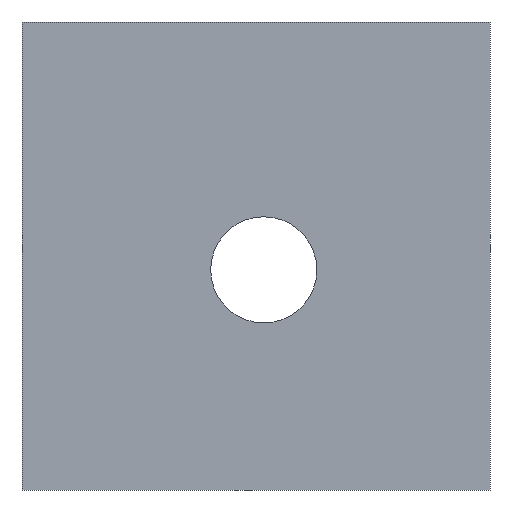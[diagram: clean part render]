
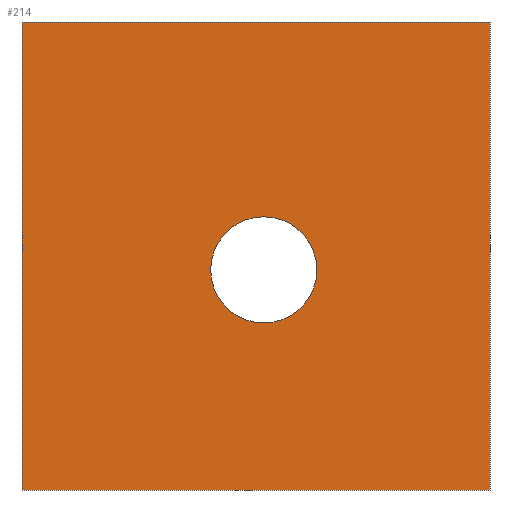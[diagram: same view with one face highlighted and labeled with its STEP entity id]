
A CAD part, front view. The second image highlights one B-rep face of the part: STEP entity #214.
In plain terms, the highlighted planar face has unit normal (0, -1, 0).
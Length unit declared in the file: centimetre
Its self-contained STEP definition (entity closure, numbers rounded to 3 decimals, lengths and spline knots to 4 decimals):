
#6 = ORIENTED_EDGE ( 'NONE', *, *, #8, .T. ) ;
#8 = EDGE_CURVE ( 'NONE', #135, #184, #46, .T. ) ;
#10 = DIRECTION ( 'NONE',  ( 0., 0., -1. ) ) ;
#11 = CARTESIAN_POINT ( 'NONE',  ( 0., 0., 1000. ) ) ;
#22 = EDGE_CURVE ( 'NONE', #33, #67, #165, .T. ) ;
#33 = VERTEX_POINT ( 'NONE', #11 ) ;
#46 = LINE ( 'NONE', #48, #58 ) ;
#48 = CARTESIAN_POINT ( 'NONE',  ( 0., 0., 0. ) ) ;
#57 = EDGE_CURVE ( 'NONE', #289, #181, #94, .T. ) ;
#58 = VECTOR ( 'NONE', #267, 100. ) ;
#67 = VERTEX_POINT ( 'NONE', #140 ) ;
#94 = CIRCLE ( 'NONE', #354, 113.3802 ) ;
#118 = DIRECTION ( 'NONE',  ( 0., 1., 0. ) ) ;
#131 = DIRECTION ( 'NONE',  ( 0., 0., -1. ) ) ;
#132 = ORIENTED_EDGE ( 'NONE', *, *, #22, .F. ) ;
#135 = VERTEX_POINT ( 'NONE', #405 ) ;
#140 = CARTESIAN_POINT ( 'NONE',  ( 1000., 0., 1000. ) ) ;
#151 = EDGE_CURVE ( 'NONE', #33, #135, #373, .T. ) ;
#161 = ORIENTED_EDGE ( 'NONE', *, *, #57, .F. ) ;
#162 = AXIS2_PLACEMENT_3D ( 'NONE', #401, #118, #368 ) ;
#165 = LINE ( 'NONE', #234, #319 ) ;
#174 = CARTESIAN_POINT ( 'NONE',  ( 1000., 0., 0. ) ) ;
#176 = FACE_BOUND ( 'NONE', #305, .T. ) ;
#181 = VERTEX_POINT ( 'NONE', #278 ) ;
#184 = VERTEX_POINT ( 'NONE', #174 ) ;
#202 = DIRECTION ( 'NONE',  ( 0., 0., -1. ) ) ;
#214 = ADVANCED_FACE ( 'NONE', ( #176, #236 ), #312, .F. ) ;
#215 = VECTOR ( 'NONE', #202, 100. ) ;
#226 = DIRECTION ( 'NONE',  ( 1., 0., 0. ) ) ;
#231 = DIRECTION ( 'NONE',  ( 0., 0., -1. ) ) ;
#234 = CARTESIAN_POINT ( 'NONE',  ( 0., 0., 1000. ) ) ;
#236 = FACE_OUTER_BOUND ( 'NONE', #383, .T. ) ;
#237 = VECTOR ( 'NONE', #10, 100. ) ;
#253 = ORIENTED_EDGE ( 'NONE', *, *, #151, .T. ) ;
#256 = LINE ( 'NONE', #389, #237 ) ;
#262 = CARTESIAN_POINT ( 'NONE',  ( 516.6158, 0., 470.3977 ) ) ;
#263 = CARTESIAN_POINT ( 'NONE',  ( 516.6158, 0., 470.3977 ) ) ;
#265 = CIRCLE ( 'NONE', #347, 113.3802 ) ;
#267 = DIRECTION ( 'NONE',  ( 1., 0., 0. ) ) ;
#278 = CARTESIAN_POINT ( 'NONE',  ( 516.6158, 0., 357.0175 ) ) ;
#289 = VERTEX_POINT ( 'NONE', #407 ) ;
#291 = ORIENTED_EDGE ( 'NONE', *, *, #362, .F. ) ;
#305 = EDGE_LOOP ( 'NONE', ( #346, #161 ) ) ;
#312 = PLANE ( 'NONE',  #162 ) ;
#319 = VECTOR ( 'NONE', #226, 100. ) ;
#344 = CARTESIAN_POINT ( 'NONE',  ( 0., 0., 1000. ) ) ;
#346 = ORIENTED_EDGE ( 'NONE', *, *, #359, .F. ) ;
#347 = AXIS2_PLACEMENT_3D ( 'NONE', #263, #365, #131 ) ;
#354 = AXIS2_PLACEMENT_3D ( 'NONE', #262, #388, #231 ) ;
#359 = EDGE_CURVE ( 'NONE', #181, #289, #265, .T. ) ;
#362 = EDGE_CURVE ( 'NONE', #67, #184, #256, .T. ) ;
#365 = DIRECTION ( 'NONE',  ( 0., -1., 0. ) ) ;
#368 = DIRECTION ( 'NONE',  ( 0., 0., 1. ) ) ;
#373 = LINE ( 'NONE', #344, #215 ) ;
#383 = EDGE_LOOP ( 'NONE', ( #6, #291, #132, #253 ) ) ;
#388 = DIRECTION ( 'NONE',  ( 0., -1., 0. ) ) ;
#389 = CARTESIAN_POINT ( 'NONE',  ( 1000., 0., 1000. ) ) ;
#401 = CARTESIAN_POINT ( 'NONE',  ( 0., 0., 1000. ) ) ;
#405 = CARTESIAN_POINT ( 'NONE',  ( 0., 0., 0. ) ) ;
#407 = CARTESIAN_POINT ( 'NONE',  ( 516.6158, 0., 583.778 ) ) ;
